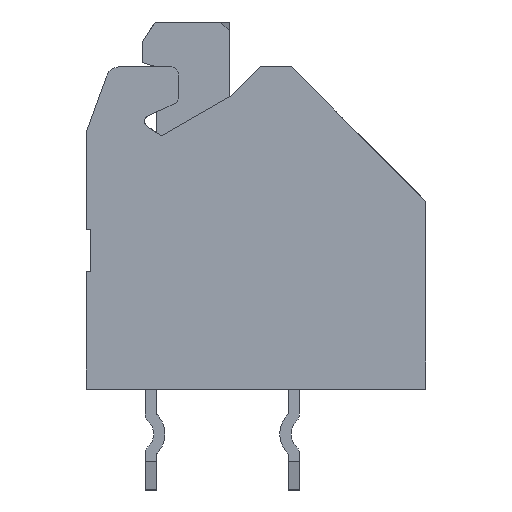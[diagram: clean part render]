
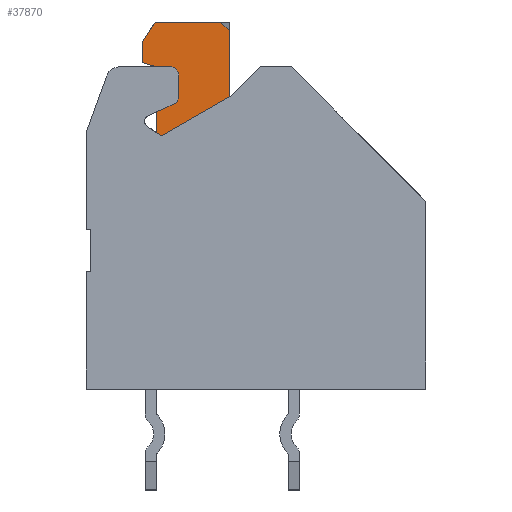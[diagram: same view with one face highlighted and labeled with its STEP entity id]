
A CAD part, left-side view. The second image highlights one B-rep face of the part: STEP entity #37870.
In plain terms, the highlighted planar face has unit normal (-1, 0, 0).
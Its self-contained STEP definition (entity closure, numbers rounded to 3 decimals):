
#211 = VERTEX_POINT ( 'NONE', #26914 ) ;
#303 = DIRECTION ( 'NONE',  ( 0., 0.958, 0.287 ) ) ;
#1280 = VECTOR ( 'NONE', #303, 1000. ) ;
#1294 = CARTESIAN_POINT ( 'NONE',  ( -13.2, 4., 12.025 ) ) ;
#1664 = VECTOR ( 'NONE', #32303, 1000. ) ;
#2811 = PLANE ( 'NONE',  #20175 ) ;
#3234 = ORIENTED_EDGE ( 'NONE', *, *, #25870, .T. ) ;
#3427 = DIRECTION ( 'NONE',  ( 0., 0., -1. ) ) ;
#3588 = LINE ( 'NONE', #35539, #1280 ) ;
#3930 = CARTESIAN_POINT ( 'NONE',  ( -13.2, 4., 12.4 ) ) ;
#4349 = LINE ( 'NONE', #7392, #9440 ) ;
#5451 = ORIENTED_EDGE ( 'NONE', *, *, #36934, .T. ) ;
#5843 = CARTESIAN_POINT ( 'NONE',  ( -13.2, 3.5, 9.035 ) ) ;
#6165 = EDGE_CURVE ( 'NONE', #16915, #26660, #23127, .T. ) ;
#7392 = CARTESIAN_POINT ( 'NONE',  ( -13.2, 2.161, 9.035 ) ) ;
#7685 = CARTESIAN_POINT ( 'NONE',  ( -13.2, 3.775, 12.75 ) ) ;
#7750 = DIRECTION ( 'NONE',  ( 0., -1., 0. ) ) ;
#8569 = DIRECTION ( 'NONE',  ( 0., 0., -1. ) ) ;
#9440 = VECTOR ( 'NONE', #7750, 1000. ) ;
#9883 = LINE ( 'NONE', #21581, #32422 ) ;
#10637 = VERTEX_POINT ( 'NONE', #3930 ) ;
#10780 = LINE ( 'NONE', #37593, #21186 ) ;
#12555 = VERTEX_POINT ( 'NONE', #13269 ) ;
#13269 = CARTESIAN_POINT ( 'NONE',  ( -13.2, 3.55, 13.1 ) ) ;
#13519 = ORIENTED_EDGE ( 'NONE', *, *, #26502, .F. ) ;
#14511 = EDGE_CURVE ( 'NONE', #211, #12555, #14525, .T. ) ;
#14525 = LINE ( 'NONE', #17011, #1664 ) ;
#15408 = CARTESIAN_POINT ( 'NONE',  ( -13.2, 2.45, 11.068 ) ) ;
#15752 = ORIENTED_EDGE ( 'NONE', *, *, #14511, .T. ) ;
#16391 = EDGE_CURVE ( 'NONE', #26660, #25716, #4349, .T. ) ;
#16915 = VERTEX_POINT ( 'NONE', #24619 ) ;
#17011 = CARTESIAN_POINT ( 'NONE',  ( -13.2, 2.45, 13.1 ) ) ;
#18711 = DIRECTION ( 'NONE',  ( 0., 0.756, 0.655 ) ) ;
#20019 = CARTESIAN_POINT ( 'NONE',  ( -13.2, 4., 11.65 ) ) ;
#20169 = EDGE_LOOP ( 'NONE', ( #32098, #27498, #36132, #5451, #15752, #3234, #34608, #13519 ) ) ;
#20175 = AXIS2_PLACEMENT_3D ( 'NONE', #15408, #23993, #27078 ) ;
#21186 = VECTOR ( 'NONE', #37012, 1000. ) ;
#21581 = CARTESIAN_POINT ( 'NONE',  ( -13.2, 0.9, 12.792 ) ) ;
#23127 = LINE ( 'NONE', #34794, #37739 ) ;
#23993 = DIRECTION ( 'NONE',  ( -1., 0., 0. ) ) ;
#24619 = CARTESIAN_POINT ( 'NONE',  ( -13.2, 3.5, 11.5 ) ) ;
#25254 = DIRECTION ( 'NONE',  ( 0., 0.541, -0.841 ) ) ;
#25716 = VERTEX_POINT ( 'NONE', #37367 ) ;
#25870 = EDGE_CURVE ( 'NONE', #12555, #10637, #33879, .T. ) ;
#26230 = VECTOR ( 'NONE', #25254, 1000. ) ;
#26310 = VECTOR ( 'NONE', #3427, 1000. ) ;
#26502 = EDGE_CURVE ( 'NONE', #16915, #37818, #3588, .T. ) ;
#26660 = VERTEX_POINT ( 'NONE', #5843 ) ;
#26914 = CARTESIAN_POINT ( 'NONE',  ( -13.2, 1.256, 13.1 ) ) ;
#27078 = DIRECTION ( 'NONE',  ( 0., 0., -1. ) ) ;
#27498 = ORIENTED_EDGE ( 'NONE', *, *, #16391, .T. ) ;
#27500 = LINE ( 'NONE', #1294, #26310 ) ;
#32098 = ORIENTED_EDGE ( 'NONE', *, *, #6165, .T. ) ;
#32303 = DIRECTION ( 'NONE',  ( 0., 1., 0. ) ) ;
#32422 = VECTOR ( 'NONE', #18711, 1000. ) ;
#33092 = VERTEX_POINT ( 'NONE', #35327 ) ;
#33879 = LINE ( 'NONE', #7685, #26230 ) ;
#34050 = EDGE_CURVE ( 'NONE', #25716, #33092, #10780, .T. ) ;
#34608 = ORIENTED_EDGE ( 'NONE', *, *, #36938, .T. ) ;
#34794 = CARTESIAN_POINT ( 'NONE',  ( -13.2, 3.5, 11.068 ) ) ;
#35327 = CARTESIAN_POINT ( 'NONE',  ( -13.2, 0.9, 12.792 ) ) ;
#35539 = CARTESIAN_POINT ( 'NONE',  ( -13.2, 3.75, 11.575 ) ) ;
#36132 = ORIENTED_EDGE ( 'NONE', *, *, #34050, .T. ) ;
#36934 = EDGE_CURVE ( 'NONE', #33092, #211, #9883, .T. ) ;
#36938 = EDGE_CURVE ( 'NONE', #10637, #37818, #27500, .T. ) ;
#37012 = DIRECTION ( 'NONE',  ( 0., 0., 1. ) ) ;
#37367 = CARTESIAN_POINT ( 'NONE',  ( -13.2, 0.9, 9.035 ) ) ;
#37593 = CARTESIAN_POINT ( 'NONE',  ( -13.2, 0.9, 11.068 ) ) ;
#37643 = FACE_OUTER_BOUND ( 'NONE', #20169, .T. ) ;
#37739 = VECTOR ( 'NONE', #8569, 1000. ) ;
#37818 = VERTEX_POINT ( 'NONE', #20019 ) ;
#37870 = ADVANCED_FACE ( 'NONE', ( #37643 ), #2811, .T. ) ;
